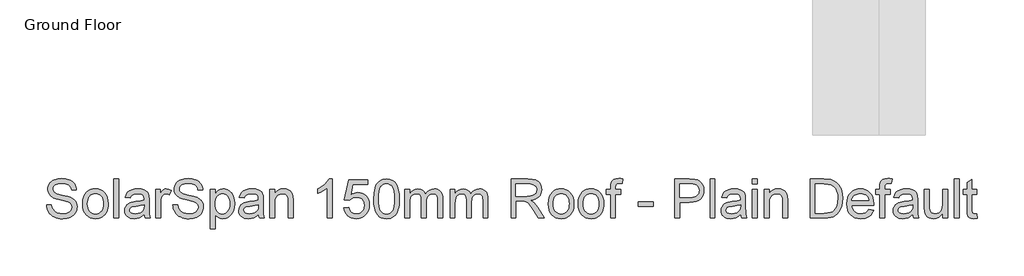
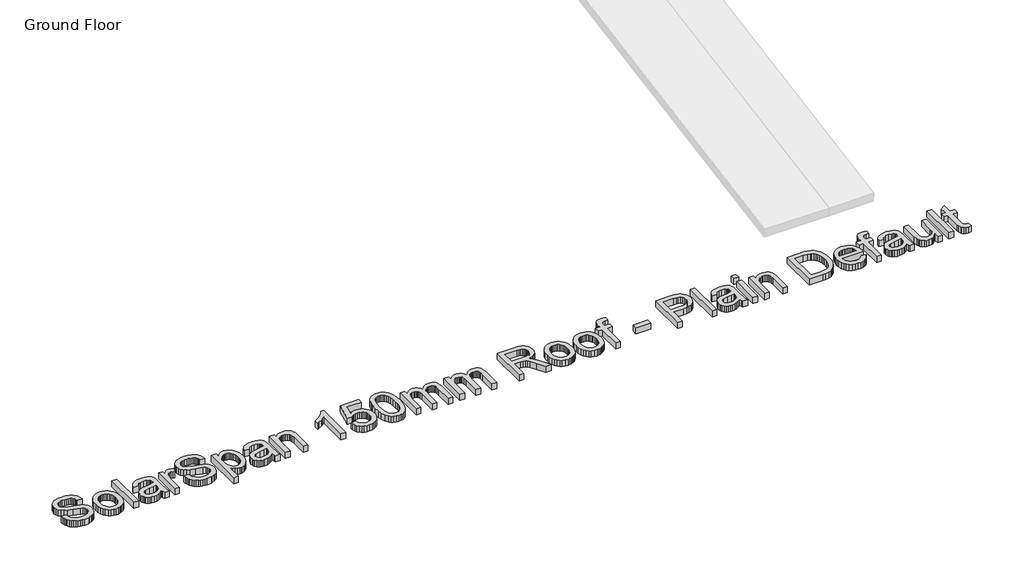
# One storey, part 4 of 5: 1 proxy.
"""IFC4 building model written with IfcOpenShell, lengths in millimetres."""

from ifc_helpers import new_model, si_unit, origin, origin_with_axes, place, context, project, spatial, polyline, outline, extrude, element, save

model = new_model("IFC4")

# Units and contexts
model_context = context("Model", 3, world=origin())
ifc_project = project(units=[si_unit("LENGTHUNIT", "METRE", prefix="MILLI")], contexts=[model_context])

# Site, building, storey
site = spatial("IfcSite", under=ifc_project)
building = spatial("IfcBuilding", under=site)
storey = spatial("IfcBuildingStorey", under=building, Name="Ground Floor", Elevation=0.0)

# Proxy
placement = place(None, origin())
element("IfcBuildingElementProxy", 1, Name="600mm Arial", ObjectType="600mm Arial", at=placement, inside=storey, context=model_context, shape_type="SweptSolid", body=[
    extrude(outline(polyline([(15786.8842438, -48595.7294918), (15860.7303976, -48595.7294918), (15869.2039553, -48636.7090591), (15884.5284745, -48669.647761), (15908.4347245, -48695.7895879), (15942.6534745, -48716.3785302), (15984.4803976, -48729.7379052), (16031.2111668, -48734.1910302), (16072.3529938, -48730.819636), (16108.3746284, -48720.7054533), (16137.5633303, -48704.6958379), (16158.2063592, -48683.6381456), (16170.4840034, -48659.4614629), (16174.5765515, -48634.0948764), (16171.5116476, -48609.3773283), (16162.3169361, -48588.0131456), (16143.6390515, -48569.7859821), (16112.1246284, -48554.4794918), (16004.6005899, -48526.2823764), (15934.0176572, -48507.6225206), (15888.8553976, -48489.8641071), (15852.0945803, -48465.0203571), (15826.0428976, -48434.9121841), (15810.5200611, -48400.1886264), (15805.3457822, -48361.4987225), (15806.9458423, -48339.5080374), (15811.7460226, -48318.2475206), (15819.7463231, -48297.717172), (15830.9467438, -48277.9169918), (15845.2210827, -48259.6537706), (15862.443138, -48243.7342995), (15882.6129096, -48230.1585783), (15905.7303976, -48218.9266071), (15957.6895322, -48203.8364629), (16015.2015515, -48198.8064148), (16077.5092438, -48204.0708379), (16132.0284745, -48219.8641071), (16155.880638, -48231.6279293), (16176.8121284, -48245.8617033), (16194.8229457, -48262.5654293), (16209.9130899, -48281.7391071), (16221.9653736, -48302.8238427), (16230.8626092, -48325.2607418), (16236.6047967, -48349.0498043), (16239.1919361, -48374.1910302), (16165.3457822, -48374.1910302), (16160.4058784, -48350.6273283), (16151.7880899, -48330.1285302), (16139.4924168, -48312.694636), (16123.5188592, -48298.3256456), (16103.5699409, -48287.0936745), (16079.3481861, -48279.0708379), (16050.8535947, -48274.257136), (16018.0861668, -48272.6525687), (15984.2730659, -48274.2391071), (15955.3818399, -48278.9987225), (15931.412489, -48286.9314148), (15912.365013, -48298.0371841), (15897.8517918, -48311.3875446), (15887.4852053, -48326.054011), (15881.2652534, -48342.0365831), (15879.1919361, -48359.335261), (15885.0693399, -48387.7126648), (15902.7015515, -48410.5371841), (15918.8914553, -48420.6874245), (15944.3842438, -48430.9458379), (16023.2784745, -48451.7871841), (16104.6967438, -48471.5828571), (16153.9515515, -48488.8544918), (16196.0489072, -48515.6453571), (16212.3244481, -48531.3935543), (16225.4178976, -48548.710261), (16235.482501, -48567.5053331), (16242.6715034, -48587.6886264), (16248.4227053, -48632.2198764), (16246.7685587, -48655.3193355), (16241.8061188, -48677.7427129), (16233.5353856, -48699.4900086), (16221.9563592, -48720.5612225), (16207.271864, -48740.1405495), (16189.6847245, -48757.4121841), (16169.1949409, -48772.3761264), (16145.802513, -48785.0323764), (16120.1880298, -48795.0969797), (16093.0320803, -48802.2859821), (16034.0957822, -48808.0371841), (15996.3208423, -48806.4867033), (15961.7460226, -48801.835261), (15930.3713231, -48794.0828571), (15902.1967438, -48783.2294918), (15877.0510106, -48769.257136), (15854.7628495, -48752.147761), (15835.3322606, -48731.9013668), (15818.7592438, -48708.5179533), (15805.4088832, -48682.7547321), (15795.646263, -48655.3689148), (15789.4713832, -48626.3605014), (15786.8842438, -48595.7294918)])), origin_with_axes(), (0.0, 0.0, 1.0), 100.0),
    extrude(outline(polyline([(16331.4996284, -48581.8833379), (16335.4930178, -48525.6964389), (16347.4731861, -48477.2799725), (16367.4401332, -48436.6339389), (16395.3938592, -48403.7583379), (16423.536888, -48382.7457177), (16454.6005899, -48367.7367033), (16488.5849649, -48358.7312946), (16525.490013, -48355.7294918), (16566.2306981, -48359.3848403), (16603.068138, -48370.350886), (16636.0023327, -48388.6276288), (16665.0332822, -48414.2150687), (16688.7276933, -48446.2478211), (16705.6522726, -48483.8605014), (16715.8070202, -48527.0531095), (16719.1919361, -48575.8256456), (16717.6955418, -48615.3538908), (16713.2063592, -48650.429011), (16705.724388, -48681.0510062), (16695.2496284, -48707.2198764), (16681.9127894, -48729.8235422), (16665.8445803, -48749.7499245), (16647.045001, -48766.999023), (16625.5140515, -48781.5708379), (16602.0900731, -48793.1498644), (16577.6114072, -48801.4205975), (16552.0780539, -48806.3830374), (16525.490013, -48808.0371841), (16484.154376, -48804.3953571), (16446.974388, -48793.4698764), (16413.9500491, -48775.2607418), (16385.0813592, -48749.7679533), (16361.6393519, -48717.4242033), (16344.8950611, -48678.6621841), (16334.8484866, -48633.4818956), (16331.4996284, -48581.8833379)]), holes=[polyline([(16405.3457822, -48581.7391071), (16407.4822005, -48617.5579172), (16413.8914553, -48648.5720398), (16424.5735467, -48674.7814749), (16439.5284745, -48696.1862225), (16457.7195803, -48712.8133259), (16478.1102053, -48724.6898283), (16500.7003495, -48731.8157297), (16525.490013, -48734.1910302), (16550.1534745, -48731.8022081), (16572.6534745, -48724.6357418), (16592.990013, -48712.6916312), (16611.1630899, -48695.9698764), (16626.1180178, -48674.3532898), (16636.8001092, -48647.7246841), (16643.209364, -48616.0840591), (16645.3457822, -48579.4314148), (16643.1958423, -48544.748422), (16636.7460226, -48514.5455975), (16625.9963231, -48488.8229413), (16610.9467438, -48467.5804533), (16592.7060587, -48450.9533499), (16572.3830418, -48439.0768475), (16549.9776933, -48431.9509461), (16525.490013, -48429.5756456), (16500.7003495, -48431.9419317), (16478.1102053, -48439.0407898), (16457.7195803, -48450.8722201), (16439.5284745, -48467.4362225), (16424.5735467, -48488.7778692), (16413.8914553, -48514.9422321), (16407.4822005, -48545.9293115), (16405.3457822, -48581.7391071)])]), origin_with_axes(), (0.0, 0.0, 1.0), 100.0),
    extrude(outline(polyline([(16802.2688592, -48798.8064148), (16802.2688592, -48208.0371841), (16876.115013, -48208.0371841), (16876.115013, -48798.8064148), (16802.2688592, -48798.8064148)])), origin_with_axes(), (0.0, 0.0, 1.0), 100.0),
    extrude(outline(polyline([(17263.8073207, -48743.4217995), (17228.5248688, -48773.6742033), (17192.1967438, -48793.4698764), (17153.9936188, -48804.3953571), (17113.0861668, -48808.0371841), (17080.2060587, -48805.8466793), (17051.3734265, -48799.2751648), (17026.5882702, -48788.3226408), (17005.8505899, -48772.9891071), (16989.4758904, -48754.2481216), (16977.7796765, -48733.0732418), (16970.7619481, -48709.4644677), (16968.4227053, -48683.4217995), (16971.9563592, -48652.8088187), (16982.5573207, -48625.0083379), (16998.9094842, -48601.210261), (17019.6967438, -48582.6044918), (17044.1258303, -48568.5419918), (17071.4034745, -48558.3737225), (17135.2977053, -48547.2679533), (17210.802513, -48535.585261), (17263.3746284, -48521.8833379), (17263.8073207, -48505.4410302), (17258.7231861, -48472.4842995), (17252.3680178, -48460.2787706), (17243.4707822, -48450.9217995), (17228.0921765, -48441.5828571), (17209.3602053, -48434.9121841), (17161.8361668, -48429.5756456), (17117.8457822, -48433.1273283), (17087.1246284, -48443.7823764), (17066.1751092, -48463.4879052), (17051.4996284, -48494.1910302), (16977.6534745, -48484.960261), (16990.4719842, -48444.5756456), (17009.6005899, -48412.8448764), (17036.8241476, -48388.5780495), (17073.927513, -48370.585261), (17119.3061188, -48359.4434341), (17171.3553976, -48355.7294918), (17221.2772726, -48359.0107418), (17260.8505899, -48368.8544918), (17290.6883303, -48383.6561745), (17311.4034745, -48401.8112225), (17325.1414553, -48424.257136), (17334.0477053, -48451.9314148), (17337.6534745, -48516.5467995), (17337.6534745, -48608.4217995), (17341.4034745, -48736.7150687), (17346.9563592, -48768.4278091), (17356.115013, -48798.8064148), (17282.2688592, -48798.8064148), (17270.4419361, -48773.1333379), (17263.8073207, -48743.4217995)]), holes=[polyline([(17263.8073207, -48595.7294918), (17214.1919361, -48608.0251648), (17144.6727053, -48618.3737225), (17081.1390515, -48630.3448764), (17064.6065995, -48638.5299725), (17052.365013, -48649.8160302), (17044.7928976, -48663.3376648), (17042.2688592, -48678.2294918), (17047.7676572, -48700.1886264), (17064.2640515, -48718.1814148), (17091.3974649, -48730.1886264), (17128.8073207, -48734.1910302), (17168.4707822, -48729.7739629), (17203.5188592, -48716.522761), (17231.9323207, -48696.9975206), (17251.6919361, -48673.7583379), (17260.4539553, -48649.8160302), (17263.3746284, -48616.6429533), (17263.8073207, -48595.7294918)])]), origin_with_axes(), (0.0, 0.0, 1.0), 100.0),
    extrude(outline(polyline([(17439.1919361, -48798.8064148), (17439.1919361, -48364.960261), (17503.8073207, -48364.960261), (17503.8073207, -48429.1429533), (17527.677513, -48391.9314148), (17549.6727053, -48370.0083379), (17571.740013, -48359.2992033), (17595.8265515, -48355.7294918), (17632.6053976, -48361.4266071), (17669.9611668, -48378.5179533), (17645.2977053, -48444.7198764), (17619.3361668, -48433.3617033), (17593.3746284, -48429.5756456), (17571.3253495, -48433.2174725), (17551.6198207, -48444.1429533), (17535.7003495, -48461.522761), (17525.0092438, -48484.5275687), (17516.0308784, -48525.7775687), (17513.0380899, -48570.7775687), (17513.0380899, -48798.8064148), (17439.1919361, -48798.8064148)])), origin_with_axes(), (0.0, 0.0, 1.0), 100.0),
    extrude(outline(polyline([(17697.6534745, -48595.7294918), (17771.4996284, -48595.7294918), (17779.9731861, -48636.7090591), (17795.2977053, -48669.647761), (17819.2039553, -48695.7895879), (17853.4227053, -48716.3785302), (17895.2496284, -48729.7379052), (17941.9803976, -48734.1910302), (17983.1222245, -48730.819636), (18019.1438592, -48720.7054533), (18048.3325611, -48704.6958379), (18068.9755899, -48683.6381456), (18081.2532342, -48659.4614629), (18085.3457822, -48634.0948764), (18082.2808784, -48609.3773283), (18073.0861668, -48588.0131456), (18054.4082822, -48569.7859821), (18022.8938592, -48554.4794918), (17915.3698207, -48526.2823764), (17844.786888, -48507.6225206), (17799.6246284, -48489.8641071), (17762.8638111, -48465.0203571), (17736.8121284, -48434.9121841), (17721.2892918, -48400.1886264), (17716.115013, -48361.4987225), (17717.7150731, -48339.5080374), (17722.5152534, -48318.2475206), (17730.5155539, -48297.717172), (17741.7159745, -48277.9169918), (17755.9903135, -48259.6537706), (17773.2123688, -48243.7342995), (17793.3821404, -48230.1585783), (17816.4996284, -48218.9266071), (17868.458763, -48203.8364629), (17925.9707822, -48198.8064148), (17988.2784745, -48204.0708379), (18042.7977053, -48219.8641071), (18066.6498688, -48231.6279293), (18087.5813592, -48245.8617033), (18105.5921765, -48262.5654293), (18120.6823207, -48281.7391071), (18132.7346043, -48302.8238427), (18141.6318399, -48325.2607418), (18147.3740274, -48349.0498043), (18149.9611668, -48374.1910302), (18076.115013, -48374.1910302), (18071.1751092, -48350.6273283), (18062.5573207, -48330.1285302), (18050.2616476, -48312.694636), (18034.2880899, -48298.3256456), (18014.3391717, -48287.0936745), (17990.1174168, -48279.0708379), (17961.6228255, -48274.257136), (17928.8553976, -48272.6525687), (17895.0422967, -48274.2391071), (17866.1510707, -48278.9987225), (17842.1817197, -48286.9314148), (17823.1342438, -48298.0371841), (17808.6210226, -48311.3875446), (17798.2544361, -48326.054011), (17792.0344842, -48342.0365831), (17789.9611668, -48359.335261), (17795.8385707, -48387.7126648), (17813.4707822, -48410.5371841), (17829.6606861, -48420.6874245), (17855.1534745, -48430.9458379), (17934.0477053, -48451.7871841), (18015.4659745, -48471.5828571), (18064.7207822, -48488.8544918), (18106.818138, -48515.6453571), (18123.0936789, -48531.3935543), (18136.1871284, -48548.710261), (18146.2517317, -48567.5053331), (18153.4407342, -48587.6886264), (18159.1919361, -48632.2198764), (18157.5377894, -48655.3193355), (18152.5753495, -48677.7427129), (18144.3046164, -48699.4900086), (18132.7255899, -48720.5612225), (18118.0410947, -48740.1405495), (18100.4539553, -48757.4121841), (18079.9641717, -48772.3761264), (18056.5717438, -48785.0323764), (18030.9572606, -48795.0969797), (18003.8013111, -48802.2859821), (17944.865013, -48808.0371841), (17907.0900731, -48806.4867033), (17872.5152534, -48801.835261), (17841.1405539, -48794.0828571), (17812.9659745, -48783.2294918), (17787.8202414, -48769.257136), (17765.5320803, -48752.147761), (17746.1014914, -48731.9013668), (17729.5284745, -48708.5179533), (17716.178114, -48682.7547321), (17706.4154938, -48655.3689148), (17700.240614, -48626.3605014), (17697.6534745, -48595.7294918)])), origin_with_axes(), (0.0, 0.0, 1.0), 100.0),
    extrude(outline(polyline([(18260.7303976, -48964.960261), (18260.7303976, -48364.960261), (18334.5765515, -48364.960261), (18334.5765515, -48437.3641071), (18358.6630899, -48401.6489629), (18385.6342438, -48376.1381456), (18417.0765515, -48360.8316552), (18454.5765515, -48355.7294918), (18480.3307582, -48357.5143475), (18504.5164553, -48362.8689148), (18527.1336428, -48371.7931937), (18548.1823207, -48384.2871841), (18567.2027534, -48400.0263668), (18583.7352053, -48418.6862225), (18597.7796765, -48440.2667514), (18609.3361668, -48464.7679533), (18624.8049168, -48519.179011), (18629.9611668, -48578.5660302), (18624.1378495, -48641.7210783), (18616.8587029, -48670.7970999), (18606.6678976, -48698.2054533), (18593.7051572, -48723.2294918), (18578.1102053, -48745.1525687), (18559.8830418, -48763.9746841), (18539.0236668, -48779.6958379), (18516.5552173, -48792.0951769), (18493.5008303, -48800.9518475), (18469.8605058, -48806.2658499), (18445.6342438, -48808.0371841), (18411.6859265, -48803.2955975), (18381.3794361, -48789.0708379), (18355.4359265, -48767.5984821), (18334.5765515, -48741.1141071), (18334.5765515, -48964.960261), (18260.7303976, -48964.960261)]), holes=[polyline([(18334.5765515, -48585.3448764), (18336.5732462, -48620.9338187), (18342.5633303, -48651.5467995), (18352.5468039, -48677.1838187), (18366.5236668, -48697.8448764), (18383.3490875, -48713.7463187), (18401.8782342, -48725.1044918), (18422.1111067, -48731.9193956), (18444.0477053, -48734.1910302), (18466.2998087, -48731.8382658), (18486.9022726, -48724.7799725), (18505.8550971, -48713.0161504), (18523.1582822, -48696.5467995), (18537.5768519, -48675.1375446), (18547.8758303, -48648.554011), (18554.0552173, -48616.7961985), (18556.115013, -48579.8641071), (18554.1047967, -48544.5816552), (18548.0741476, -48514.022761), (18538.0230659, -48488.1874245), (18523.9515515, -48467.0756456), (18507.0855659, -48450.6693956), (18488.6510707, -48438.9506456), (18468.6480659, -48431.9193956), (18447.0765515, -48429.5756456), (18425.5726452, -48432.0681336), (18405.3397726, -48439.5455975), (18386.3779337, -48452.0080374), (18368.6871284, -48469.4554533), (18353.763751, -48491.6534701), (18343.1041957, -48518.3677129), (18336.7084625, -48549.5981817), (18334.5765515, -48585.3448764)])]), origin_with_axes(), (0.0, 0.0, 1.0), 100.0),
    extrude(outline(polyline([(18989.9611668, -48743.4217995), (18954.6787149, -48773.6742033), (18918.3505899, -48793.4698764), (18880.1474649, -48804.3953571), (18839.240013, -48808.0371841), (18806.3599048, -48805.8466793), (18777.5272726, -48799.2751648), (18752.7421164, -48788.3226408), (18732.0044361, -48772.9891071), (18715.6297366, -48754.2481216), (18703.9335226, -48733.0732418), (18696.9157942, -48709.4644677), (18694.5765515, -48683.4217995), (18698.1102053, -48652.8088187), (18708.7111668, -48625.0083379), (18725.0633303, -48601.210261), (18745.8505899, -48582.6044918), (18770.2796765, -48568.5419918), (18797.5573207, -48558.3737225), (18861.4515515, -48547.2679533), (18936.9563592, -48535.585261), (18989.5284745, -48521.8833379), (18989.9611668, -48505.4410302), (18984.8770322, -48472.4842995), (18978.521864, -48460.2787706), (18969.6246284, -48450.9217995), (18954.2460226, -48441.5828571), (18935.5140515, -48434.9121841), (18887.990013, -48429.5756456), (18843.9996284, -48433.1273283), (18813.2784745, -48443.7823764), (18792.3289553, -48463.4879052), (18777.6534745, -48494.1910302), (18703.8073207, -48484.960261), (18716.6258303, -48444.5756456), (18735.7544361, -48412.8448764), (18762.9779938, -48388.5780495), (18800.0813592, -48370.585261), (18845.4599649, -48359.4434341), (18897.5092438, -48355.7294918), (18947.4311188, -48359.0107418), (18987.0044361, -48368.8544918), (19016.8421765, -48383.6561745), (19037.5573207, -48401.8112225), (19051.2953015, -48424.257136), (19060.2015515, -48451.9314148), (19063.8073207, -48516.5467995), (19063.8073207, -48608.4217995), (19067.5573207, -48736.7150687), (19073.1102053, -48768.4278091), (19082.2688592, -48798.8064148), (19008.4227053, -48798.8064148), (18996.5957822, -48773.1333379), (18989.9611668, -48743.4217995)]), holes=[polyline([(18989.9611668, -48595.7294918), (18940.3457822, -48608.0251648), (18870.8265515, -48618.3737225), (18807.2928976, -48630.3448764), (18790.7604457, -48638.5299725), (18778.5188592, -48649.8160302), (18770.9467438, -48663.3376648), (18768.4227053, -48678.2294918), (18773.9215034, -48700.1886264), (18790.4178976, -48718.1814148), (18817.5513111, -48730.1886264), (18854.9611668, -48734.1910302), (18894.6246284, -48729.7739629), (18929.6727053, -48716.522761), (18958.0861668, -48696.9975206), (18977.8457822, -48673.7583379), (18986.6078015, -48649.8160302), (18989.5284745, -48616.6429533), (18989.9611668, -48595.7294918)])]), origin_with_axes(), (0.0, 0.0, 1.0), 100.0),
    extrude(outline(polyline([(19165.3457822, -48798.8064148), (19165.3457822, -48364.960261), (19239.1919361, -48364.960261), (19239.1919361, -48425.5371841), (19264.8469842, -48394.9963187), (19295.6582822, -48373.1814148), (19331.6258303, -48360.0924725), (19372.7496284, -48355.7294918), (19409.1498688, -48359.2451168), (19442.4852053, -48369.7919918), (19470.2856861, -48386.054011), (19490.0813592, -48406.7150687), (19503.5128495, -48431.7210783), (19512.2207822, -48461.0179533), (19516.115013, -48532.4121841), (19516.115013, -48798.8064148), (19442.2688592, -48798.8064148), (19442.2688592, -48542.3641071), (19440.1414553, -48504.179011), (19433.7592438, -48477.0275687), (19421.9864072, -48457.5744437), (19403.6871284, -48442.4842995), (19380.2315995, -48432.8028091), (19352.990013, -48429.5756456), (19330.5666356, -48431.3875446), (19309.7388111, -48436.8232418), (19290.5065394, -48445.882737), (19272.8698207, -48458.5660302), (19258.1357462, -48476.3154293), (19247.6114072, -48500.5732418), (19241.2968039, -48531.3394677), (19239.1919361, -48568.6141071), (19239.1919361, -48798.8064148), (19165.3457822, -48798.8064148)])), origin_with_axes(), (0.0, 0.0, 1.0), 100.0),
    extrude(outline(polyline([(20106.8842438, -48798.8064148), (20033.0380899, -48798.8064148), (20033.0380899, -48338.4217995), (20002.208763, -48363.3556937), (19963.0861668, -48388.2535302), (19922.0164553, -48410.0143475), (19885.3457822, -48425.5371841), (19885.3457822, -48355.7294918), (19943.3445803, -48324.179011), (19993.5909745, -48286.6429533), (20033.2003495, -48246.7270879), (20059.2880899, -48208.0371841), (20106.8842438, -48208.0371841), (20106.8842438, -48798.8064148)])), origin_with_axes(), (0.0, 0.0, 1.0), 100.0),
    extrude(outline(polyline([(20282.2688592, -48641.8833379), (20356.115013, -48632.6525687), (20361.6318399, -48656.3920519), (20369.6727053, -48676.9855014), (20380.2376092, -48694.4329172), (20393.3265515, -48708.7342995), (20408.912489, -48719.8716192), (20426.9683784, -48727.8268475), (20447.4942197, -48732.5999845), (20470.490013, -48734.1910302), (20498.615013, -48731.9779894), (20523.4227053, -48725.3388668), (20544.9130899, -48714.2736624), (20563.0861668, -48698.7823764), (20577.536287, -48679.6312345), (20587.8578015, -48657.5864629), (20594.0507101, -48632.6480615), (20596.115013, -48604.8160302), (20594.1814192, -48578.5119437), (20588.380638, -48555.1285302), (20578.7126692, -48534.6657898), (20565.177513, -48517.1237225), (20547.7300971, -48503.0522081), (20526.3253495, -48493.0011264), (20500.9632702, -48486.9704773), (20471.6438592, -48484.960261), (20435.8205418, -48488.1693956), (20406.8121284, -48497.7967995), (20383.6450611, -48512.5443956), (20365.3457822, -48531.1141071), (20291.4996284, -48521.8833379), (20356.115013, -48217.2679533), (20642.2688592, -48217.2679533), (20642.2688592, -48291.1141071), (20415.8265515, -48291.1141071), (20384.240013, -48453.8064148), (20410.3007101, -48435.1285302), (20436.9924168, -48421.7871841), (20464.3151332, -48413.7823764), (20492.2688592, -48411.1141071), (20528.2319, -48414.4224004), (20561.2652534, -48424.3472802), (20591.3689192, -48440.8887466), (20618.5428976, -48464.0467995), (20641.0383904, -48492.4061745), (20657.1065995, -48524.5516071), (20666.747525, -48560.4830975), (20669.9611668, -48600.2006456), (20667.067537, -48638.4578571), (20658.3866476, -48674.0467995), (20643.9184986, -48706.9674725), (20623.6630899, -48737.2198764), (20592.9779938, -48768.2024485), (20557.1727053, -48790.3328571), (20516.2472245, -48803.6111023), (20470.2015515, -48808.0371841), (20432.0930779, -48805.1931336), (20397.6715034, -48796.6609821), (20366.9368279, -48782.4407297), (20339.8890515, -48762.5323764), (20317.3845442, -48737.9275086), (20300.2796765, -48709.6177129), (20288.5744481, -48677.6029894), (20282.2688592, -48641.8833379)])), origin_with_axes(), (0.0, 0.0, 1.0), 100.0),
    extrude(outline(polyline([(20734.5765515, -48508.1814148), (20740.0032342, -48413.6201168), (20746.7865875, -48373.5194557), (20756.2832822, -48338.2054533), (20768.4527534, -48307.389648), (20783.2544361, -48280.7835783), (20800.6883303, -48258.3872442), (20820.7544361, -48240.2006456), (20843.5203616, -48226.1291312), (20869.0537149, -48216.0780495), (20897.3544962, -48210.0474004), (20928.4227053, -48208.0371841), (20973.927513, -48212.7967995), (21014.6727053, -48227.0756456), (21048.7472245, -48250.3148283), (21074.240013, -48281.9554533), (21093.4948207, -48321.7270879), (21108.8553976, -48369.3592995), (21118.9154938, -48429.8460783), (21122.2688592, -48508.1814148), (21116.896263, -48602.2018475), (21110.1805178, -48642.1672922), (21100.7784745, -48677.4362225), (21088.7036548, -48708.2655495), (21073.9695803, -48734.9121841), (21056.576251, -48757.3761264), (21036.5236668, -48775.6573764), (21013.7306981, -48789.8235422), (20988.1162149, -48799.9422321), (20959.6802173, -48806.0134461), (20928.4227053, -48808.0371841), (20887.7496284, -48804.5215591), (20851.6919361, -48793.9746841), (20820.2496284, -48776.3965591), (20793.4227053, -48751.7871841), (20767.677513, -48707.3010062), (20749.2880899, -48651.8713187), (20738.2544361, -48585.4981216), (20734.5765515, -48508.1814148)]), holes=[polyline([(20808.4227053, -48508.0371841), (20810.5861668, -48572.233398), (20817.0765515, -48624.1970398), (20827.8938592, -48663.9281095), (20843.0380899, -48691.4266071), (20861.3553976, -48710.1360422), (20881.6919361, -48723.4999245), (20904.0477053, -48731.5182538), (20928.4227053, -48734.1910302), (20952.7977053, -48731.5092394), (20975.1534745, -48723.4638668), (20995.490013, -48710.0549124), (21013.8073207, -48691.2823764), (21028.9515515, -48663.7388067), (21039.7688592, -48624.0167514), (21046.2592438, -48572.1162105), (21048.4227053, -48508.0371841), (21046.3313592, -48445.5401889), (21040.0573207, -48394.491511), (21029.6005899, -48354.8911504), (21014.9611668, -48326.7391071), (20996.9503495, -48307.1147081), (20976.3794361, -48293.0972802), (20953.2484265, -48284.6868235), (20927.5573207, -48281.8833379), (20903.3085226, -48284.3532898), (20881.3313592, -48291.7631456), (20861.6258303, -48304.1129052), (20844.1919361, -48321.4025687), (20828.5428976, -48352.0516071), (20817.365013, -48393.3737225), (20810.6582822, -48445.3689148), (20808.4227053, -48508.0371841)])]), origin_with_axes(), (0.0, 0.0, 1.0), 100.0),
    extrude(outline(polyline([(21205.3457822, -48798.8064148), (21205.3457822, -48364.960261), (21279.1919361, -48364.960261), (21279.1919361, -48436.3544918), (21301.4034745, -48403.5600206), (21329.9611668, -48377.8689148), (21363.8914553, -48361.2643475), (21402.2207822, -48355.7294918), (21443.2904938, -48361.3725206), (21460.7694601, -48368.4263067), (21476.2111668, -48378.3016071), (21500.802513, -48405.3989629), (21516.8842438, -48441.5467995), (21543.8013111, -48404.0017273), (21574.5044361, -48377.1838187), (21608.9936188, -48361.0930735), (21647.2688592, -48355.7294918), (21676.8316596, -48357.9605615), (21702.7796765, -48364.6537706), (21725.1129096, -48375.8091192), (21743.8313592, -48391.4266071), (21758.6285346, -48411.686523), (21769.1979457, -48436.7691552), (21775.5395923, -48466.6745038), (21777.6534745, -48501.4025687), (21777.6534745, -48798.8064148), (21703.8073207, -48798.8064148), (21703.8073207, -48533.1333379), (21702.0945803, -48496.3004052), (21696.9563592, -48471.4746841), (21687.3289553, -48454.4734821), (21672.1486668, -48441.1141071), (21652.6234265, -48432.460261), (21629.9611668, -48429.5756456), (21609.0341837, -48431.4236023), (21589.9551572, -48436.9674725), (21572.7240875, -48446.2072562), (21557.3409745, -48459.1429533), (21544.6892317, -48476.1531696), (21535.6522726, -48497.616511), (21530.2300971, -48523.5329773), (21528.4227053, -48553.9025687), (21528.4227053, -48798.8064148), (21454.5765515, -48798.8064148), (21454.5765515, -48524.9121841), (21450.3037149, -48483.1573764), (21437.4852053, -48453.3737225), (21427.5738471, -48442.9620639), (21414.9311188, -48435.5251648), (21399.5570202, -48431.0630254), (21381.4515515, -48429.5756456), (21353.0020322, -48433.5419918), (21326.7880899, -48445.4410302), (21305.1534745, -48464.9842995), (21290.4419361, -48491.8833379), (21282.0044361, -48529.2030495), (21279.1919361, -48580.0083379), (21279.1919361, -48798.8064148), (21205.3457822, -48798.8064148)])), origin_with_axes(), (0.0, 0.0, 1.0), 100.0),
    extrude(outline(polyline([(21888.4227053, -48798.8064148), (21888.4227053, -48364.960261), (21962.2688592, -48364.960261), (21962.2688592, -48436.3544918), (21984.4803976, -48403.5600206), (22013.0380899, -48377.8689148), (22046.9683784, -48361.2643475), (22085.2977053, -48355.7294918), (22126.3674168, -48361.3725206), (22143.8463832, -48368.4263067), (22159.2880899, -48378.3016071), (22183.8794361, -48405.3989629), (22199.9611668, -48441.5467995), (22226.8782342, -48404.0017273), (22257.5813592, -48377.1838187), (22292.0705418, -48361.0930735), (22330.3457822, -48355.7294918), (22359.9085827, -48357.9605615), (22385.8565995, -48364.6537706), (22408.1898327, -48375.8091192), (22426.9082822, -48391.4266071), (22441.7054577, -48411.686523), (22452.2748688, -48436.7691552), (22458.6165154, -48466.6745038), (22460.7303976, -48501.4025687), (22460.7303976, -48798.8064148), (22386.8842438, -48798.8064148), (22386.8842438, -48533.1333379), (22385.1715034, -48496.3004052), (22380.0332822, -48471.4746841), (22370.4058784, -48454.4734821), (22355.2255899, -48441.1141071), (22335.7003495, -48432.460261), (22313.0380899, -48429.5756456), (22292.1111067, -48431.4236023), (22273.0320803, -48436.9674725), (22255.8010106, -48446.2072562), (22240.4178976, -48459.1429533), (22227.7661548, -48476.1531696), (22218.7291957, -48497.616511), (22213.3070202, -48523.5329773), (22211.4996284, -48553.9025687), (22211.4996284, -48798.8064148), (22137.6534745, -48798.8064148), (22137.6534745, -48524.9121841), (22133.380638, -48483.1573764), (22120.5621284, -48453.3737225), (22110.6507702, -48442.9620639), (22098.0080418, -48435.5251648), (22082.6339433, -48431.0630254), (22064.5284745, -48429.5756456), (22036.0789553, -48433.5419918), (22009.865013, -48445.4410302), (21988.2303976, -48464.9842995), (21973.5188592, -48491.8833379), (21965.0813592, -48529.2030495), (21962.2688592, -48580.0083379), (21962.2688592, -48798.8064148), (21888.4227053, -48798.8064148)])), origin_with_axes(), (0.0, 0.0, 1.0), 100.0),
    extrude(outline(polyline([(22811.4996284, -48798.8064148), (22811.4996284, -48208.0371841), (23066.0669361, -48208.0371841), (23134.4864072, -48212.0215591), (23184.2640515, -48223.9746841), (23203.473787, -48233.475886), (23220.646263, -48246.0419918), (23235.7814793, -48261.6730014), (23248.8794361, -48280.3689148), (23259.4488471, -48301.124624), (23266.9984265, -48322.9350206), (23273.0380899, -48369.7198764), (23270.5365875, -48400.0624245), (23263.0320803, -48427.9169918), (23250.5245683, -48453.2835783), (23233.0140515, -48476.1621841), (23210.2751692, -48495.8226408), (23182.0825611, -48511.5347802), (23148.4362269, -48523.2986023), (23109.3361668, -48531.1141071), (23133.6751092, -48547.0155495), (23151.3073207, -48562.7006456), (23211.1630899, -48638.710261), (23309.6727053, -48798.8064148), (23223.8553976, -48798.8064148), (23146.9803976, -48676.3544918), (23091.4515515, -48595.2967995), (23070.8085226, -48571.6609821), (23052.4371284, -48557.0035302), (23017.3169361, -48542.9410302), (22974.4803976, -48540.3448764), (22885.3457822, -48540.3448764), (22885.3457822, -48798.8064148), (22811.4996284, -48798.8064148)]), holes=[polyline([(22885.3457822, -48466.4987225), (23050.6342438, -48466.4987225), (23098.1041957, -48463.8845398), (23134.9371284, -48456.0419918), (23162.6654938, -48442.4482418), (23182.8217438, -48422.5804533), (23195.099388, -48398.5480014), (23199.1919361, -48372.460261), (23197.2403135, -48353.5750446), (23191.3854457, -48336.4386264), (23181.6273327, -48321.0510062), (23167.9659745, -48307.4121841), (23150.0858664, -48296.2433139), (23127.6715034, -48288.2655495), (23100.7228856, -48283.4788908), (23069.240013, -48281.8833379), (22885.3457822, -48281.8833379), (22885.3457822, -48466.4987225)])]), origin_with_axes(), (0.0, 0.0, 1.0), 100.0),
    extrude(outline(polyline([(23374.5765515, -48581.8833379), (23378.5699409, -48525.6964389), (23390.5501092, -48477.2799725), (23410.5170563, -48436.6339389), (23438.4707822, -48403.7583379), (23466.6138111, -48382.7457177), (23497.677513, -48367.7367033), (23531.661888, -48358.7312946), (23568.5669361, -48355.7294918), (23609.3076212, -48359.3848403), (23646.1450611, -48370.350886), (23679.0792558, -48388.6276288), (23708.1102053, -48414.2150687), (23731.8046164, -48446.2478211), (23748.7291957, -48483.8605014), (23758.8839433, -48527.0531095), (23762.2688592, -48575.8256456), (23760.7724649, -48615.3538908), (23756.2832822, -48650.429011), (23748.8013111, -48681.0510062), (23738.3265515, -48707.2198764), (23724.9897125, -48729.8235422), (23708.9215034, -48749.7499245), (23690.1219241, -48766.999023), (23668.5909745, -48781.5708379), (23645.1669962, -48793.1498644), (23620.6883303, -48801.4205975), (23595.1549769, -48806.3830374), (23568.5669361, -48808.0371841), (23527.2312991, -48804.3953571), (23490.0513111, -48793.4698764), (23457.0269721, -48775.2607418), (23428.1582822, -48749.7679533), (23404.716275, -48717.4242033), (23387.9719842, -48678.6621841), (23377.9254096, -48633.4818956), (23374.5765515, -48581.8833379)]), holes=[polyline([(23448.4227053, -48581.7391071), (23450.5591236, -48617.5579172), (23456.9683784, -48648.5720398), (23467.6504697, -48674.7814749), (23482.6053976, -48696.1862225), (23500.7965034, -48712.8133259), (23521.1871284, -48724.6898283), (23543.7772726, -48731.8157297), (23568.5669361, -48734.1910302), (23593.2303976, -48731.8022081), (23615.7303976, -48724.6357418), (23636.0669361, -48712.6916312), (23654.240013, -48695.9698764), (23669.1949409, -48674.3532898), (23679.8770322, -48647.7246841), (23686.286287, -48616.0840591), (23688.4227053, -48579.4314148), (23686.2727654, -48544.748422), (23679.8229457, -48514.5455975), (23669.0732462, -48488.8229413), (23654.0236668, -48467.5804533), (23635.7829817, -48450.9533499), (23615.4599649, -48439.0768475), (23593.0546164, -48431.9509461), (23568.5669361, -48429.5756456), (23543.7772726, -48431.9419317), (23521.1871284, -48439.0407898), (23500.7965034, -48450.8722201), (23482.6053976, -48467.4362225), (23467.6504697, -48488.7778692), (23456.9683784, -48514.9422321), (23450.5591236, -48545.9293115), (23448.4227053, -48581.7391071)])]), origin_with_axes(), (0.0, 0.0, 1.0), 100.0),
    extrude(outline(polyline([(23826.8842438, -48581.8833379), (23830.8776332, -48525.6964389), (23842.8578015, -48477.2799725), (23862.8247486, -48436.6339389), (23890.7784745, -48403.7583379), (23918.9215034, -48382.7457177), (23949.9852053, -48367.7367033), (23983.9695803, -48358.7312946), (24020.8746284, -48355.7294918), (24061.6153135, -48359.3848403), (24098.4527534, -48370.350886), (24131.3869481, -48388.6276288), (24160.4178976, -48414.2150687), (24184.1123087, -48446.2478211), (24201.036888, -48483.8605014), (24211.1916356, -48527.0531095), (24214.5765515, -48575.8256456), (24213.0801572, -48615.3538908), (24208.5909745, -48650.429011), (24201.1090034, -48681.0510062), (24190.6342438, -48707.2198764), (24177.2974048, -48729.8235422), (24161.2291957, -48749.7499245), (24142.4296164, -48766.999023), (24120.8986668, -48781.5708379), (24097.4746885, -48793.1498644), (24072.9960226, -48801.4205975), (24047.4626692, -48806.3830374), (24020.8746284, -48808.0371841), (23979.5389914, -48804.3953571), (23942.3590034, -48793.4698764), (23909.3346644, -48775.2607418), (23880.4659745, -48749.7679533), (23857.0239673, -48717.4242033), (23840.2796765, -48678.6621841), (23830.2331019, -48633.4818956), (23826.8842438, -48581.8833379)]), holes=[polyline([(23900.7303976, -48581.7391071), (23902.8668159, -48617.5579172), (23909.2760707, -48648.5720398), (23919.958162, -48674.7814749), (23934.9130899, -48696.1862225), (23953.1041957, -48712.8133259), (23973.4948207, -48724.6898283), (23996.0849649, -48731.8157297), (24020.8746284, -48734.1910302), (24045.5380899, -48731.8022081), (24068.0380899, -48724.6357418), (24088.3746284, -48712.6916312), (24106.5477053, -48695.9698764), (24121.5026332, -48674.3532898), (24132.1847245, -48647.7246841), (24138.5939793, -48616.0840591), (24140.7303976, -48579.4314148), (24138.5804577, -48544.748422), (24132.130638, -48514.5455975), (24121.3809385, -48488.8229413), (24106.3313592, -48467.5804533), (24088.0906741, -48450.9533499), (24067.7676572, -48439.0768475), (24045.3623087, -48431.9509461), (24020.8746284, -48429.5756456), (23996.0849649, -48431.9419317), (23973.4948207, -48439.0407898), (23953.1041957, -48450.8722201), (23934.9130899, -48467.4362225), (23919.958162, -48488.7778692), (23909.2760707, -48514.9422321), (23902.8668159, -48545.9293115), (23900.7303976, -48581.7391071)])]), origin_with_axes(), (0.0, 0.0, 1.0), 100.0),
    extrude(outline(polyline([(24316.115013, -48798.8064148), (24316.115013, -48438.8064148), (24251.4996284, -48438.8064148), (24251.4996284, -48364.960261), (24316.115013, -48364.960261), (24316.115013, -48321.2583379), (24318.0621284, -48285.0924725), (24323.9034745, -48259.6717995), (24338.7592438, -48235.116511), (24361.6919361, -48215.6814148), (24393.7832822, -48203.0251648), (24436.115013, -48198.8064148), (24468.1703015, -48200.8256456), (24503.4707822, -48206.8833379), (24492.6534745, -48276.1141071), (24450.1053976, -48272.6525687), (24422.0344842, -48275.7174725), (24403.5909745, -48284.9121841), (24393.3686188, -48302.4722802), (24389.9611668, -48330.6333379), (24389.9611668, -48364.960261), (24473.0380899, -48364.960261), (24473.0380899, -48438.8064148), (24389.9611668, -48438.8064148), (24389.9611668, -48798.8064148), (24316.115013, -48798.8064148)])), origin_with_axes(), (0.0, 0.0, 1.0), 100.0),
    extrude(outline(polyline([(24731.4996284, -48623.4217995), (24731.4996284, -48549.5756456), (24962.2688592, -48549.5756456), (24962.2688592, -48623.4217995), (24731.4996284, -48623.4217995)])), origin_with_axes(), (0.0, 0.0, 1.0), 100.0),
    extrude(outline(polyline([(25285.3457822, -48798.8064148), (25285.3457822, -48208.0371841), (25504.2880899, -48208.0371841), (25555.2736668, -48209.4434341), (25592.5573207, -48213.6621841), (25631.9142918, -48224.1730014), (25664.3121284, -48241.2823764), (25690.3998688, -48265.7655495), (25710.8265515, -48298.397761), (25724.0236668, -48336.8893475), (25728.4227053, -48378.9506456), (25725.4524529, -48415.2156696), (25716.5416957, -48448.5780495), (25701.6904337, -48479.037785), (25680.8986668, -48506.5948764), (25652.3544962, -48529.4374245), (25614.2460226, -48545.7535302), (25566.5732462, -48555.5431937), (25509.3361668, -48558.8064148), (25359.1919361, -48558.8064148), (25359.1919361, -48798.8064148), (25285.3457822, -48798.8064148)]), holes=[polyline([(25359.1919361, -48484.960261), (25513.6630899, -48484.960261), (25549.1799168, -48483.2655495), (25579.1438592, -48478.1814148), (25603.5549168, -48469.7078571), (25622.4130899, -48457.8448764), (25636.4846043, -48442.9079773), (25646.5356861, -48425.2126648), (25652.5663351, -48404.7589389), (25654.5765515, -48381.5467995), (25649.8349649, -48348.3737225), (25635.6102053, -48320.3929533), (25613.6690995, -48299.335261), (25585.7784745, -48286.9314148), (25557.2928976, -48283.1453571), (25511.9323207, -48281.8833379), (25359.1919361, -48281.8833379), (25359.1919361, -48484.960261)])]), origin_with_axes(), (0.0, 0.0, 1.0), 100.0),
    extrude(outline(polyline([(25820.7303976, -48798.8064148), (25820.7303976, -48208.0371841), (25894.5765515, -48208.0371841), (25894.5765515, -48798.8064148), (25820.7303976, -48798.8064148)])), origin_with_axes(), (0.0, 0.0, 1.0), 100.0),
    extrude(outline(polyline([(26282.2688592, -48743.4217995), (26246.9864072, -48773.6742033), (26210.6582822, -48793.4698764), (26172.4551572, -48804.3953571), (26131.5477053, -48808.0371841), (26098.6675971, -48805.8466793), (26069.8349649, -48799.2751648), (26045.0498087, -48788.3226408), (26024.3121284, -48772.9891071), (26007.9374289, -48754.2481216), (25996.2412149, -48733.0732418), (25989.2234866, -48709.4644677), (25986.8842438, -48683.4217995), (25990.4178976, -48652.8088187), (26001.0188592, -48625.0083379), (26017.3710226, -48601.210261), (26038.1582822, -48582.6044918), (26062.5873688, -48568.5419918), (26089.865013, -48558.3737225), (26153.7592438, -48547.2679533), (26229.2640515, -48535.585261), (26281.8361668, -48521.8833379), (26282.2688592, -48505.4410302), (26277.1847245, -48472.4842995), (26270.8295563, -48460.2787706), (26261.9323207, -48450.9217995), (26246.5537149, -48441.5828571), (26227.8217438, -48434.9121841), (26180.2977053, -48429.5756456), (26136.3073207, -48433.1273283), (26105.5861668, -48443.7823764), (26084.6366476, -48463.4879052), (26069.9611668, -48494.1910302), (25996.115013, -48484.960261), (26008.9335226, -48444.5756456), (26028.0621284, -48412.8448764), (26055.2856861, -48388.5780495), (26092.3890515, -48370.585261), (26137.7676572, -48359.4434341), (26189.8169361, -48355.7294918), (26239.7388111, -48359.0107418), (26279.3121284, -48368.8544918), (26309.1498688, -48383.6561745), (26329.865013, -48401.8112225), (26343.6029938, -48424.257136), (26352.5092438, -48451.9314148), (26356.115013, -48516.5467995), (26356.115013, -48608.4217995), (26359.865013, -48736.7150687), (26365.4178976, -48768.4278091), (26374.5765515, -48798.8064148), (26300.7303976, -48798.8064148), (26288.9034745, -48773.1333379), (26282.2688592, -48743.4217995)]), holes=[polyline([(26282.2688592, -48595.7294918), (26232.6534745, -48608.0251648), (26163.1342438, -48618.3737225), (26099.6005899, -48630.3448764), (26083.068138, -48638.5299725), (26070.8265515, -48649.8160302), (26063.2544361, -48663.3376648), (26060.7303976, -48678.2294918), (26066.2291957, -48700.1886264), (26082.7255899, -48718.1814148), (26109.8590034, -48730.1886264), (26147.2688592, -48734.1910302), (26186.9323207, -48729.7739629), (26221.9803976, -48716.522761), (26250.3938592, -48696.9975206), (26270.1534745, -48673.7583379), (26278.9154938, -48649.8160302), (26281.8361668, -48616.6429533), (26282.2688592, -48595.7294918)])]), origin_with_axes(), (0.0, 0.0, 1.0), 100.0),
    extrude(outline(polyline([(26457.6534745, -48798.8064148), (26457.6534745, -48364.960261), (26531.4996284, -48364.960261), (26531.4996284, -48798.8064148), (26457.6534745, -48798.8064148)])), origin_with_axes(), (0.0, 0.0, 1.0), 100.0),
    extrude(outline(polyline([(26457.6534745, -48281.8833379), (26457.6534745, -48208.0371841), (26531.4996284, -48208.0371841), (26531.4996284, -48281.8833379), (26457.6534745, -48281.8833379)])), origin_with_axes(), (0.0, 0.0, 1.0), 100.0),
    extrude(outline(polyline([(26642.2688592, -48798.8064148), (26642.2688592, -48364.960261), (26716.115013, -48364.960261), (26716.115013, -48425.5371841), (26741.7700611, -48394.9963187), (26772.5813592, -48373.1814148), (26808.5489072, -48360.0924725), (26849.6727053, -48355.7294918), (26886.0729457, -48359.2451168), (26919.4082822, -48369.7919918), (26947.208763, -48386.054011), (26967.0044361, -48406.7150687), (26980.4359265, -48431.7210783), (26989.1438592, -48461.0179533), (26993.0380899, -48532.4121841), (26993.0380899, -48798.8064148), (26919.1919361, -48798.8064148), (26919.1919361, -48542.3641071), (26917.0645322, -48504.179011), (26910.6823207, -48477.0275687), (26898.9094842, -48457.5744437), (26880.6102053, -48442.4842995), (26857.1546765, -48432.8028091), (26829.9130899, -48429.5756456), (26807.4897125, -48431.3875446), (26786.661888, -48436.8232418), (26767.4296164, -48445.882737), (26749.7928976, -48458.5660302), (26735.0588231, -48476.3154293), (26724.5344842, -48500.5732418), (26718.2198808, -48531.3394677), (26716.115013, -48568.6141071), (26716.115013, -48798.8064148), (26642.2688592, -48798.8064148)])), origin_with_axes(), (0.0, 0.0, 1.0), 100.0),
    extrude(outline(polyline([(27334.5765515, -48798.8064148), (27334.5765515, -48208.0371841), (27538.3746284, -48208.0371841), (27599.2760707, -48210.1645879), (27643.8073207, -48216.5467995), (27690.8986668, -48232.9530495), (27730.6342438, -48258.8064148), (27752.5302774, -48279.9362225), (27771.4876092, -48303.8064148), (27787.506239, -48330.4169918), (27800.5861668, -48359.7679533), (27810.7454217, -48391.5888668), (27818.0020322, -48425.6092995), (27823.8073207, -48500.2487225), (27819.8770322, -48563.6561745), (27808.0861668, -48619.4554533), (27790.1294361, -48666.9614629), (27767.7015515, -48705.4891071), (27741.8842438, -48735.9037706), (27713.7592438, -48759.0708379), (27681.4695803, -48776.2523283), (27643.1582822, -48788.710261), (27598.7532342, -48796.2823764), (27548.1823207, -48798.8064148), (27334.5765515, -48798.8064148)]), holes=[polyline([(27408.4227053, -48724.960261), (27539.0957822, -48724.960261), (27593.146263, -48722.2919918), (27634.1438592, -48714.2871841), (27665.0813592, -48701.4145879), (27688.9515515, -48684.1429533), (27714.6065995, -48652.1778091), (27733.8794361, -48610.8016071), (27745.9407342, -48559.8340591), (27749.9611668, -48499.0948764), (27747.9915154, -48456.2222802), (27742.0825611, -48418.6141071), (27732.2343039, -48386.2703571), (27718.4467438, -48359.1910302), (27701.8376692, -48336.7631456), (27683.5248688, -48318.3737225), (27663.5083423, -48304.022761), (27641.7880899, -48293.710261), (27599.3121284, -48284.8400687), (27537.0765515, -48281.8833379), (27408.4227053, -48281.8833379), (27408.4227053, -48724.960261)])]), origin_with_axes(), (0.0, 0.0, 1.0), 100.0),
    extrude(outline(polyline([(28219.865013, -48669.5756456), (28292.2688592, -48678.8064148), (28281.1675971, -48707.8058139), (28266.1811188, -48733.3617033), (28247.3094241, -48755.4740831), (28224.552513, -48774.1429533), (28198.1447606, -48788.9716793), (28168.3205418, -48799.5636264), (28135.0798567, -48805.9187946), (28098.4227053, -48808.0371841), (28052.6023928, -48804.3818355), (28011.7760707, -48793.4157898), (27975.943739, -48775.139047), (27945.1053976, -48749.5516071), (27920.3067197, -48717.3656095), (27902.5933784, -48679.2931937), (27891.9653736, -48635.3343595), (27888.4227053, -48585.4891071), (27892.0014313, -48533.9536504), (27902.7376092, -48488.5299725), (27920.631239, -48449.2180735), (27945.6823207, -48416.0179533), (27976.4395322, -48389.6417514), (28011.4515515, -48370.8016071), (28050.7183784, -48359.4975206), (28094.240013, -48355.7294918), (28136.3599048, -48359.4885062), (28174.4503495, -48370.7655495), (28208.5113471, -48389.5606216), (28238.5428976, -48415.8737225), (28263.0576212, -48449.0017273), (28280.568138, -48488.241511), (28291.0744481, -48533.5930735), (28294.5765515, -48585.0564148), (28294.1438592, -48604.960261), (27962.2688592, -48604.960261), (27966.5462029, -48634.42841), (27975.0513111, -48660.2367033), (27987.7841837, -48682.3851408), (28004.7448207, -48700.8737225), (28024.9957221, -48715.4500446), (28047.599388, -48725.8617033), (28072.5558183, -48732.1086985), (28099.865013, -48734.1910302), (28139.1678976, -48730.3328571), (28172.2688592, -48718.7583379), (28199.1678976, -48698.7463187), (28219.865013, -48669.5756456)]), holes=[polyline([(27962.2688592, -48531.1141071), (28220.7303976, -48531.1141071), (28210.7424168, -48492.0996841), (28202.1516717, -48476.757136), (28191.1630899, -48464.1910302), (28171.0248688, -48449.0467995), (28148.1102053, -48438.2294918), (28122.4190995, -48431.7391071), (28093.9515515, -48429.5756456), (28067.9855058, -48431.3019076), (28044.1739072, -48436.4806937), (28022.5167558, -48445.1120038), (28003.0140515, -48457.1958379), (27986.6483664, -48472.1733019), (27974.4022726, -48489.4855014), (27966.2757702, -48509.1324365), (27962.2688592, -48531.1141071)])]), origin_with_axes(), (0.0, 0.0, 1.0), 100.0),
    extrude(outline(polyline([(28386.8842438, -48798.8064148), (28386.8842438, -48438.8064148), (28322.2688592, -48438.8064148), (28322.2688592, -48364.960261), (28386.8842438, -48364.960261), (28386.8842438, -48321.2583379), (28388.8313592, -48285.0924725), (28394.6727053, -48259.6717995), (28409.5284745, -48235.116511), (28432.4611668, -48215.6814148), (28464.552513, -48203.0251648), (28506.8842438, -48198.8064148), (28538.9395322, -48200.8256456), (28574.240013, -48206.8833379), (28563.4227053, -48276.1141071), (28520.8746284, -48272.6525687), (28492.8037149, -48275.7174725), (28474.3602053, -48284.9121841), (28464.1378495, -48302.4722802), (28460.7303976, -48330.6333379), (28460.7303976, -48364.960261), (28543.8073207, -48364.960261), (28543.8073207, -48438.8064148), (28460.7303976, -48438.8064148), (28460.7303976, -48798.8064148), (28386.8842438, -48798.8064148)])), origin_with_axes(), (0.0, 0.0, 1.0), 100.0),
    extrude(outline(polyline([(28885.3457822, -48743.4217995), (28850.0633303, -48773.6742033), (28813.7352053, -48793.4698764), (28775.5320803, -48804.3953571), (28734.6246284, -48808.0371841), (28701.7445202, -48805.8466793), (28672.911888, -48799.2751648), (28648.1267317, -48788.3226408), (28627.3890515, -48772.9891071), (28611.0143519, -48754.2481216), (28599.318138, -48733.0732418), (28592.3004096, -48709.4644677), (28589.9611668, -48683.4217995), (28593.4948207, -48652.8088187), (28604.0957822, -48625.0083379), (28620.4479457, -48601.210261), (28641.2352053, -48582.6044918), (28665.6642918, -48568.5419918), (28692.9419361, -48558.3737225), (28756.8361668, -48547.2679533), (28832.3409745, -48535.585261), (28884.9130899, -48521.8833379), (28885.3457822, -48505.4410302), (28880.2616476, -48472.4842995), (28873.9064793, -48460.2787706), (28865.0092438, -48450.9217995), (28849.630638, -48441.5828571), (28830.8986668, -48434.9121841), (28783.3746284, -48429.5756456), (28739.3842438, -48433.1273283), (28708.6630899, -48443.7823764), (28687.7135707, -48463.4879052), (28673.0380899, -48494.1910302), (28599.1919361, -48484.960261), (28612.0104457, -48444.5756456), (28631.1390515, -48412.8448764), (28658.3626092, -48388.5780495), (28695.4659745, -48370.585261), (28740.8445803, -48359.4434341), (28792.8938592, -48355.7294918), (28842.8157342, -48359.0107418), (28882.3890515, -48368.8544918), (28912.2267918, -48383.6561745), (28932.9419361, -48401.8112225), (28946.6799168, -48424.257136), (28955.5861668, -48451.9314148), (28959.1919361, -48516.5467995), (28959.1919361, -48608.4217995), (28962.9419361, -48736.7150687), (28968.4948207, -48768.4278091), (28977.6534745, -48798.8064148), (28903.8073207, -48798.8064148), (28891.9803976, -48773.1333379), (28885.3457822, -48743.4217995)]), holes=[polyline([(28885.3457822, -48595.7294918), (28835.7303976, -48608.0251648), (28766.2111668, -48618.3737225), (28702.677513, -48630.3448764), (28686.1450611, -48638.5299725), (28673.9034745, -48649.8160302), (28666.3313592, -48663.3376648), (28663.8073207, -48678.2294918), (28669.3061188, -48700.1886264), (28685.802513, -48718.1814148), (28712.9359265, -48730.1886264), (28750.3457822, -48734.1910302), (28790.0092438, -48729.7739629), (28825.0573207, -48716.522761), (28853.4707822, -48696.9975206), (28873.2303976, -48673.7583379), (28881.9924168, -48649.8160302), (28884.9130899, -48616.6429533), (28885.3457822, -48595.7294918)])]), origin_with_axes(), (0.0, 0.0, 1.0), 100.0),
    extrude(outline(polyline([(29337.6534745, -48798.8064148), (29337.6534745, -48724.2391071), (29310.9347245, -48760.9007658), (29279.8169361, -48787.0876648), (29244.3001092, -48802.7998043), (29204.3842438, -48808.0371841), (29168.4166957, -48804.3592995), (29134.9371284, -48793.3256456), (29106.8481861, -48776.7391071), (29087.052513, -48756.4025687), (29073.7291957, -48731.7030495), (29065.0573207, -48702.0275687), (29060.7303976, -48633.3737225), (29060.7303976, -48364.960261), (29134.5765515, -48364.960261), (29134.5765515, -48598.6141071), (29135.6943399, -48645.3448764), (29139.0477053, -48673.9025687), (29149.8109265, -48699.0167514), (29168.2544361, -48718.1092995), (29193.1522726, -48730.1705975), (29223.2784745, -48734.1910302), (29255.1354457, -48730.0804533), (29284.9371284, -48717.7487225), (29309.5104457, -48698.3316552), (29325.6823207, -48672.9650687), (29334.6606861, -48638.2234821), (29337.6534745, -48590.6814148), (29337.6534745, -48364.960261), (29411.4996284, -48364.960261), (29411.4996284, -48798.8064148), (29337.6534745, -48798.8064148)])), origin_with_axes(), (0.0, 0.0, 1.0), 100.0),
    extrude(outline(polyline([(29513.0380899, -48798.8064148), (29513.0380899, -48208.0371841), (29586.8842438, -48208.0371841), (29586.8842438, -48798.8064148), (29513.0380899, -48798.8064148)])), origin_with_axes(), (0.0, 0.0, 1.0), 100.0),
    extrude(outline(polyline([(29854.5765515, -48737.2198764), (29863.8073207, -48800.9698764), (29808.5669361, -48808.0371841), (29773.1222245, -48804.9722802), (29746.6919361, -48795.7775687), (29728.0140515, -48781.6068956), (29715.8265515, -48763.6141071), (29709.1198207, -48732.7126648), (29706.8842438, -48679.8160302), (29706.8842438, -48438.8064148), (29651.4996284, -48438.8064148), (29651.4996284, -48364.960261), (29706.8842438, -48364.960261), (29706.8842438, -48259.5275687), (29780.7303976, -48216.1141071), (29780.7303976, -48364.960261), (29854.5765515, -48364.960261), (29854.5765515, -48438.8064148), (29780.7303976, -48438.8064148), (29780.7303976, -48677.6525687), (29784.6246284, -48715.7294918), (29797.2448207, -48729.2150687), (29807.8998688, -48732.9470398), (29822.4130899, -48734.1910302), (29854.5765515, -48737.2198764)])), origin_with_axes(), (0.0, 0.0, 1.0), 100.0),
])

save(model, "model.ifc")
